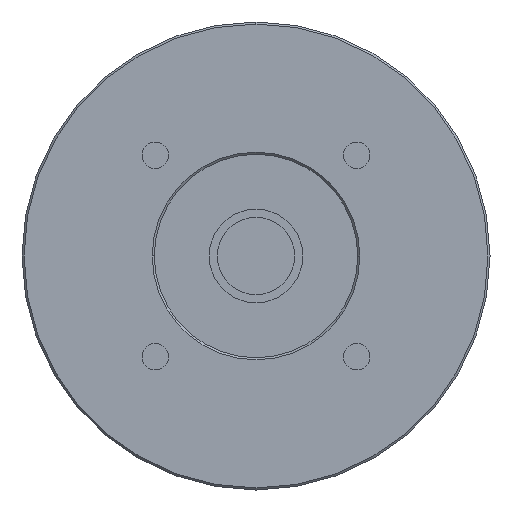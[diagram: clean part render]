
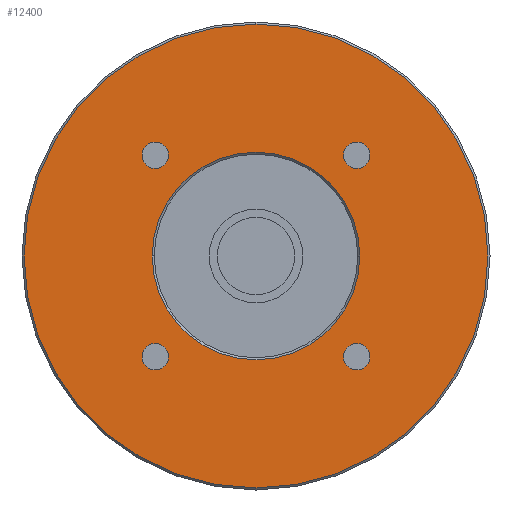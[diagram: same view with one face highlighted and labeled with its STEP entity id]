
A CAD part, left-side view. The second image highlights one B-rep face of the part: STEP entity #12400.
In plain terms, the highlighted planar face has unit normal (-1, 0, 0) as drawn and (0, 0, -1) by its records, which use the part's own axes.
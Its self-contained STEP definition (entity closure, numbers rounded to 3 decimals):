
#9260=CARTESIAN_POINT('',(27.999,24.749,-47.));
#9270=VERTEX_POINT('',#9260);
#9300=CARTESIAN_POINT('',(24.749,24.749,-47.));
#9310=DIRECTION('',(0.,0.,-1.));
#9320=DIRECTION('',(1.,0.,0.));
#9330=AXIS2_PLACEMENT_3D('',#9300,#9310,#9320);
#9340=CIRCLE('',#9330,3.25);
#9350=CARTESIAN_POINT('',(21.499,24.749,-47.));
#9360=VERTEX_POINT('',#9350);
#9370=EDGE_CURVE('',#9360,#9270,#9340,.T.);
#11330=CARTESIAN_POINT('',(0.,57.,-47.));
#11340=VERTEX_POINT('',#11330);
#11370=CARTESIAN_POINT('',(0.,0.,
-47.));
#11380=DIRECTION('',(0.,0.,-1.));
#11390=DIRECTION('',(1.,0.,0.));
#11400=AXIS2_PLACEMENT_3D('',#11370,#11380,#11390);
#11410=CIRCLE('',#11400,57.);
#11420=CARTESIAN_POINT('',(57.,0.,-47.));
#11430=VERTEX_POINT('',#11420);
#11440=EDGE_CURVE('',#11340,#11430,#11410,.T.);
#11460=CARTESIAN_POINT('',(0.,-57.,-47.));
#11470=VERTEX_POINT('',#11460);
#11480=EDGE_CURVE('',#11430,#11470,#11410,.T.);
#11640=CARTESIAN_POINT('',(0.,0.,
-47.));
#11650=DIRECTION('',(0.,0.,-1.));
#11660=DIRECTION('',(1.,0.,0.));
#11670=AXIS2_PLACEMENT_3D('',#11640,#11650,#11660);
#11680=PLANE('',#11670);
#11690=EDGE_CURVE('',#11470,#11340,#11410,.T.);
#11700=ORIENTED_EDGE('',*,*,#11690,.T.);
#11710=ORIENTED_EDGE('',*,*,#11480,.T.);
#11720=ORIENTED_EDGE('',*,*,#11440,.T.);
#11730=EDGE_LOOP('',(#11720,#11710,#11700));
#11740=FACE_OUTER_BOUND('',#11730,.T.);
#11750=CARTESIAN_POINT('',(0.,0.,
-47.));
#11760=DIRECTION('',(0.,0.,-1.));
#11770=DIRECTION('',(1.,0.,0.));
#11780=AXIS2_PLACEMENT_3D('',#11750,#11760,#11770);
#11790=CIRCLE('',#11780,25.5);
#11800=CARTESIAN_POINT('',(25.5,0.,-47.));
#11810=VERTEX_POINT('',#11800);
#11820=CARTESIAN_POINT('',(-25.5,0.,-47.));
#11830=VERTEX_POINT('',#11820);
#11840=EDGE_CURVE('',#11810,#11830,#11790,.T.);
#11850=ORIENTED_EDGE('',*,*,#11840,.F.);
#11860=EDGE_CURVE('',#11830,#11810,#11790,.T.);
#11870=ORIENTED_EDGE('',*,*,#11860,.F.);
#11880=EDGE_LOOP('',(#11870,#11850));
#11890=FACE_BOUND('',#11880,.T.);
#11900=CARTESIAN_POINT('',(24.749,-24.749,-47.));
#11910=DIRECTION('',(0.,0.,-1.));
#11920=DIRECTION('',(1.,0.,0.));
#11930=AXIS2_PLACEMENT_3D('',#11900,#11910,#11920);
#11940=CIRCLE('',#11930,3.25);
#11950=CARTESIAN_POINT('',(27.999,-24.749,-47.));
#11960=VERTEX_POINT('',#11950);
#11970=CARTESIAN_POINT('',(21.499,-24.749,-47.));
#11980=VERTEX_POINT('',#11970);
#11990=EDGE_CURVE('',#11960,#11980,#11940,.T.);
#12000=ORIENTED_EDGE('',*,*,#11990,.F.);
#12010=EDGE_CURVE('',#11980,#11960,#11940,.T.);
#12020=ORIENTED_EDGE('',*,*,#12010,.F.);
#12030=EDGE_LOOP('',(#12020,#12000));
#12040=FACE_BOUND('',#12030,.T.);
#12050=EDGE_CURVE('',#9270,#9360,#9340,.T.);
#12060=ORIENTED_EDGE('',*,*,#12050,.F.);
#12070=ORIENTED_EDGE('',*,*,#9370,.F.);
#12080=EDGE_LOOP('',(#12070,#12060));
#12090=FACE_BOUND('',#12080,.T.);
#12100=CARTESIAN_POINT('',(-24.749,24.749,-47.));
#12110=DIRECTION('',(0.,0.,-1.));
#12120=DIRECTION('',(1.,0.,0.));
#12130=AXIS2_PLACEMENT_3D('',#12100,#12110,#12120);
#12140=CIRCLE('',#12130,3.25);
#12150=CARTESIAN_POINT('',(-21.499,24.749,-47.));
#12160=VERTEX_POINT('',#12150);
#12170=CARTESIAN_POINT('',(-27.999,24.749,-47.));
#12180=VERTEX_POINT('',#12170);
#12190=EDGE_CURVE('',#12160,#12180,#12140,.T.);
#12200=ORIENTED_EDGE('',*,*,#12190,.F.);
#12210=EDGE_CURVE('',#12180,#12160,#12140,.T.);
#12220=ORIENTED_EDGE('',*,*,#12210,.F.);
#12230=EDGE_LOOP('',(#12220,#12200));
#12240=FACE_BOUND('',#12230,.T.);
#12250=CARTESIAN_POINT('',(-24.749,-24.749,-47.));
#12260=DIRECTION('',(0.,0.,-1.));
#12270=DIRECTION('',(1.,0.,0.));
#12280=AXIS2_PLACEMENT_3D('',#12250,#12260,#12270);
#12290=CIRCLE('',#12280,3.25);
#12300=CARTESIAN_POINT('',(-21.499,-24.749,-47.));
#12310=VERTEX_POINT('',#12300);
#12320=CARTESIAN_POINT('',(-27.999,-24.749,-47.));
#12330=VERTEX_POINT('',#12320);
#12340=EDGE_CURVE('',#12310,#12330,#12290,.T.);
#12350=ORIENTED_EDGE('',*,*,#12340,.F.);
#12360=EDGE_CURVE('',#12330,#12310,#12290,.T.);
#12370=ORIENTED_EDGE('',*,*,#12360,.F.);
#12380=EDGE_LOOP('',(#12370,#12350));
#12390=FACE_BOUND('',#12380,.T.);
#12400=ADVANCED_FACE('',(#11740,#11890,#12040,#12090,#12240,#12390),
#11680,.T.);
